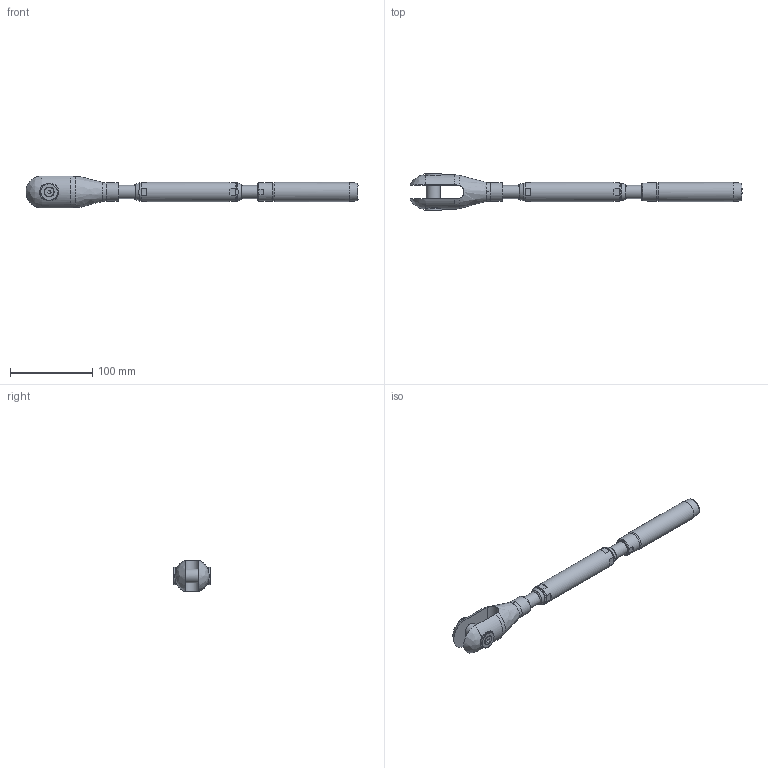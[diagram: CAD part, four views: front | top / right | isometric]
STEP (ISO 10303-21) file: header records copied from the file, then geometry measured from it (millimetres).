
FILE_DESCRIPTION(/* description */ (''),/* implementation_level */ '2;1');
FILE_NAME(/* name */ 'TBC 12_42CrMo4',/* time_stamp */ '2023-05-23T18:16:35+02:00',/* author */ (''),/* organization */ (''),/* preprocessor_version */ 'ST-DEVELOPER v16.5',/* originating_system */ 'Rhino 7.22',/* authorisation */ '');
FILE_SCHEMA (('CONFIG_CONTROL_DESIGN'));
Length unit declared in the file: millimetre
Products named in the file (1): Document
Bounding box: 404.17 x 45.45 x 38.41 mm (x, y, z)
Volume: 175880 mm3; surface area: 55814.3 mm2
Topology: 10 solids, 10 shells, 140 faces, 382 edges, 264 vertices
Faces by surface type: plane 65, bspline 40, cylinder 35
Full cylindrical faces by diameter (mm): 4.917 x2, 6 x2, 6.5 x2, 11.34 x2, 13.835 x4, 16 x2, 17 x1, 18 x2, 20 x1, 21 x2, 22.2 x2, 23.3 x1, 24 x1
Entity records: 5887 total; most frequent: CARTESIAN_POINT 3462, ORIENTED_EDGE 756, EDGE_CURVE 378, VERTEX_POINT 264, EDGE_LOOP 160, B_SPLINE_CURVE_WITH_KNOTS 157, ADVANCED_FACE 140, FACE_OUTER_BOUND 140
